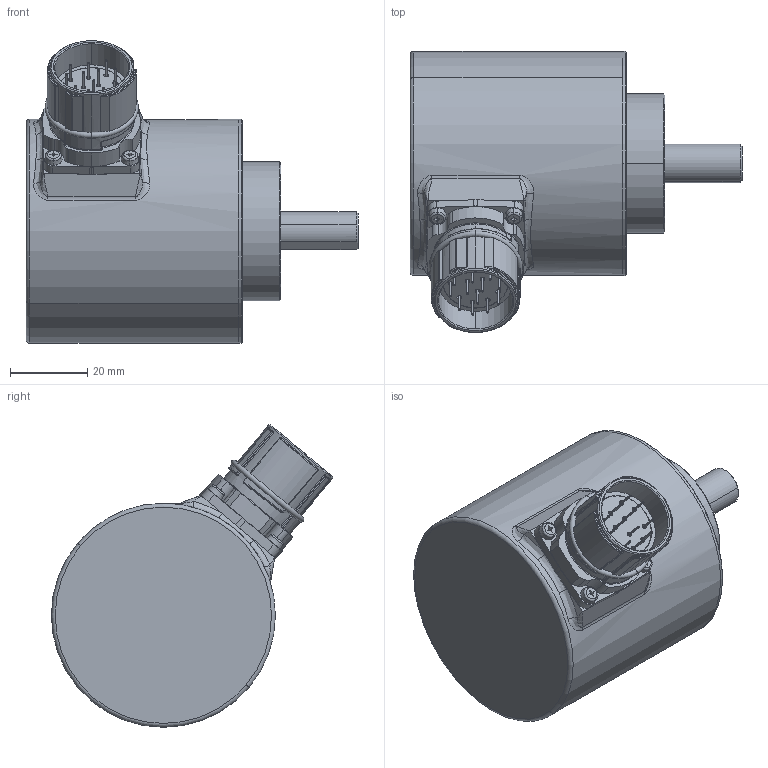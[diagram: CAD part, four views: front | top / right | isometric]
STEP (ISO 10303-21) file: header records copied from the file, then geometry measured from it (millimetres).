
FILE_DESCRIPTION (( 'STEP AP203' ), '1' );
FILE_NAME ('8.5805.12X5.XXXX.STEP', '2013-11-20T07:55:36', ( 'HeirlerN' ), ( 'Microsoft' ), 'SwSTEP 2.0', 'SolidWorks 2013', '' );
FILE_SCHEMA (( 'CONFIG_CONTROL_DESIGN' ));
Length unit declared in the file: millimetre
Products named in the file (1): 8.5805.12X5.XXXX
Bounding box: 85.95 x 72.82 x 78.34 mm (x, y, z)
Volume: 59441.5 mm3; surface area: 50358.6 mm2
Topology: 22 solids, 22 shells, 921 faces, 2160 edges, 1308 vertices
Faces by surface type: cylinder 411, plane 210, cone 110, torus 71, sphere 68, bspline 51
Entity records: 29411 total; most frequent: CARTESIAN_POINT 8384, DIRECTION 4742, ORIENTED_EDGE 4108, EDGE_CURVE 2054, AXIS2_PLACEMENT_3D 2006, VERTEX_POINT 1270, CIRCLE 1135, EDGE_LOOP 1086
